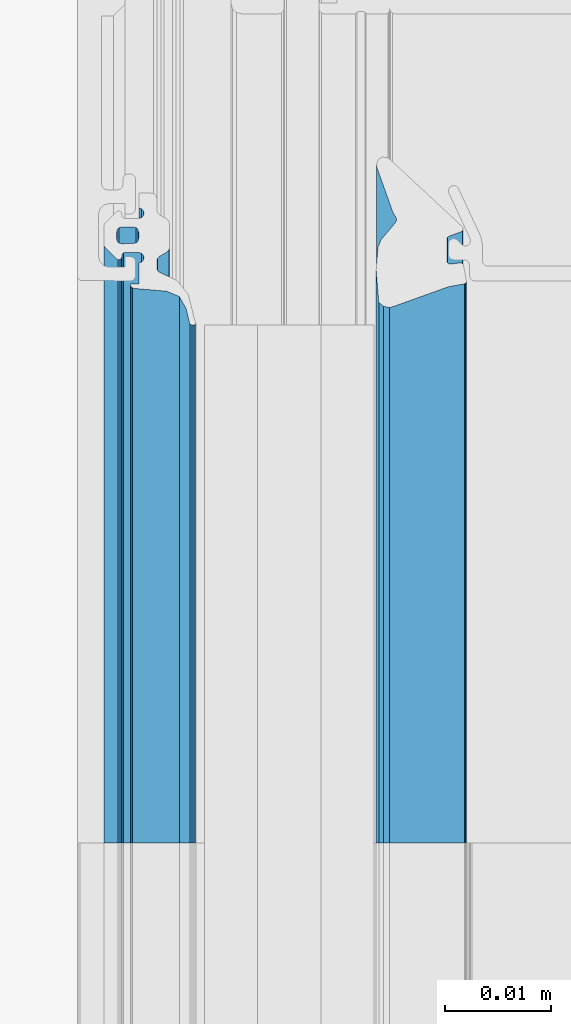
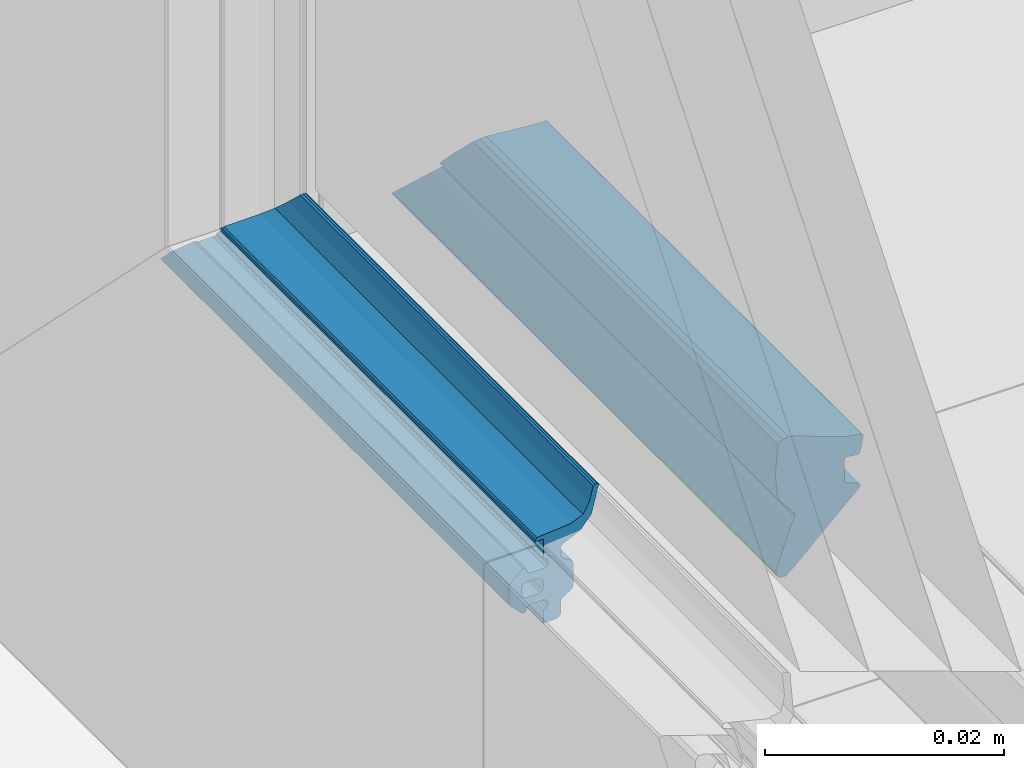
# One storey, part 56 of 62: 1 building element part, 2 elements without a shape of their own.
"""IFC2X3 building model written with IfcOpenShell, lengths in millimetres."""

from ifc_helpers import new_model, entity, si_unit, converted_unit, derived_unit, money_unit, direction, frame, origin_with_axes, place, context, subcontext, project, spatial, faceted_brep, material, type_object, element, aggregate, save


model = new_model("IFC2X3")

# Units and contexts
model_context = context("Model", 3, precision=0.01, world=origin_with_axes(), true_north=direction((0.0, 1.0)))
body_context = subcontext(model_context, "Body", "Model", "MODEL_VIEW")
ifc_project = project(units=[si_unit("LENGTHUNIT", "METRE", prefix="MILLI"), si_unit("AREAUNIT", "SQUARE_METRE"), si_unit("VOLUMEUNIT", "CUBIC_METRE"), converted_unit("PLANEANGLEUNIT", "DEGREE", entity("IfcPlaneAngleMeasure", 0.0174532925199), si_unit("PLANEANGLEUNIT", "RADIAN"), dimensions=[0, 0, 0, 0, 0, 0, 0]), si_unit("SOLIDANGLEUNIT", "STERADIAN"), money_unit("EUR"), converted_unit("TIMEUNIT", "Year", entity("IfcTimeMeasure", 31556926.0), si_unit("TIMEUNIT", "SECOND"), dimensions=[0, 0, 1, 0, 0, 0, 0]), si_unit("MASSUNIT", "GRAM", prefix="KILO"), si_unit("THERMODYNAMICTEMPERATUREUNIT", "DEGREE_CELSIUS"), si_unit("LUMINOUSINTENSITYUNIT", "LUMEN"), si_unit("ENERGYUNIT", "JOULE", prefix="MEGA"), derived_unit("THERMALCONDUCTANCEUNIT", [(si_unit("POWERUNIT", "WATT"), 1), (si_unit("LENGTHUNIT", "METRE"), -1), (si_unit("THERMODYNAMICTEMPERATUREUNIT", "KELVIN"), -1)]), derived_unit("SPECIFICHEATCAPACITYUNIT", [(si_unit("ENERGYUNIT", "JOULE"), 1), (si_unit("MASSUNIT", "GRAM", prefix="KILO"), -1), (si_unit("THERMODYNAMICTEMPERATUREUNIT", "KELVIN"), -1)]), derived_unit("MASSDENSITYUNIT", [(si_unit("MASSUNIT", "GRAM", prefix="KILO"), 1), (si_unit("VOLUMEUNIT", "CUBIC_METRE"), -1)])], contexts=[model_context])

# Site, building, storey
site_placement = place(None, origin_with_axes())
site = spatial("IfcSite", under=ifc_project, at=site_placement, Name="Puškini 31, Narva", CompositionType="ELEMENT")
building_placement = place(site_placement, origin_with_axes())
building = spatial("IfcBuilding", under=site, at=building_placement, Name="Narva Riigigümnaasium", CompositionType="ELEMENT")
storey_placement = place(building_placement, frame((0.0, 0.0, 660.0), z_axis=(0.0, 0.0, 1.0), x_axis=(1.0, 0.0, 0.0)))
storey = spatial("IfcBuildingStorey", under=building, at=storey_placement, Name="2.korrus +0.66", CompositionType="ELEMENT", Elevation=660.0)

# Curtain wall, member, building element part
curtain_wall_type = type_object("IfcCurtainWallType", Name="Curtain Wall Type", PredefinedType="NOTDEFINED")
curtain_wall_placement = place(storey_placement, frame((47544.998162, 221675.502168, -2.45869393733e-05), z_axis=(0.0, 0.0, 1.0), x_axis=(1.0, 0.0, 0.0)))
curtain_wall = element("IfcCurtainWall", 1, at=curtain_wall_placement, inside=storey, type_object=curtain_wall_type, Name="G-SKLF-51")
member_type = type_object("IfcMemberType", Name="61 x 45", PredefinedType="MULLION")
member_placement = place(curtain_wall_placement, frame((-0.0091109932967, 2124.49797564, 0.0), z_axis=(4.28853941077e-06, -0.999999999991, 0.0), x_axis=(0.0, 0.0, 1.0)))
member = element("IfcMember", 2, at=member_placement, type_object=member_type, Name="G-SKLF-63-raam", ObjectType="MULLION")
aggregate(curtain_wall, [member])
ifc_material = material(Name="Membraan - Veekindel")
building_element_part_placement = place(member_placement, origin_with_axes())
building_element_part = element("IfcBuildingElementPart", 3, at=building_element_part_placement, material=ifc_material, Name="Membraan - Veekindel", context=body_context, shape_type="Brep", body=[
    faceted_brep([(59.5800222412, 34.73794757, 59.5800222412), (59.5800222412, 34.73794757, 109.995778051), (61.0413385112, 34.3890442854, 109.995778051), (61.0413385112, 34.3890442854, 61.0413385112), (58.4755028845, 35.3628499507, 58.4755028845), (58.4755028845, 35.3628499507, 109.995778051), (57.9693613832, 36.5265882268, 109.995778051), (57.7000324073, 39.5999584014, 109.995778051), (57.6464370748, 39.799971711, 109.995778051), (57.5000161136, 39.946391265, 109.995778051), (57.3000022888, 39.9999846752, 109.995778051), (57.3000022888, 39.1999494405, 109.995778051), (55.3000210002, 39.1999606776, 109.995778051), (55.2330337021, 38.9499606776, 109.995778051), (55.0500210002, 38.7669479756, 109.995778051), (54.8000210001, 38.6999606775, 109.995778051), (54.5500210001, 38.7669479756, 109.995778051), (54.3670082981, 38.9499606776, 109.995778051), (54.300021, 39.1999606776, 109.995778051), (54.300021, 40.4999366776, 109.995778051), (54.3402133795, 40.6499366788, 109.995778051), (54.4500210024, 40.7597443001, 109.995778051), (54.6000210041, 40.7999366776, 109.995778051), (54.7000173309, 40.7999366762, 109.995778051), (54.866675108, 40.850483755, 109.995778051), (54.9771753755, 40.9850924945, 109.995778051), (54.9942836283, 41.1584047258, 109.995778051), (54.9122350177, 41.3120206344, 109.995778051), (53.8716106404, 42.3533776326, 109.995778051), (53.7093558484, 42.4618547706, 109.995778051), (53.517932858, 42.4999486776, 109.995778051), (51.8818844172, 42.4999486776, 109.995778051), (51.6904310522, 42.4618421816, 109.995778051), (51.5281601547, 42.3533311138, 109.995778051), (50.4878083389, 41.3119729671, 109.995778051), (50.4057850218, 41.1583618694, 109.995778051), (50.4229059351, 40.9850671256, 109.995778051), (50.5334025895, 40.8504763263, 109.995778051), (50.7000457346, 40.7999366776, 109.995778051), (50.80004, 40.7999366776, 109.995778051), (50.95004, 40.7597442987, 109.995778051), (51.0598476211, 40.6499366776, 109.995778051), (51.10004, 40.4999366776, 109.995778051), (51.10004, 39.1999550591, 109.995778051), (51.0330541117, 38.9499546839, 109.995778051), (50.8500424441, 38.7669409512, 109.995778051), (50.6000428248, 38.699952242, 109.995778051), (50.3500424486, 38.7669381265, 109.995778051), (50.1670287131, 38.9499497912, 109.995778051), (50.10004, 39.1999494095, 109.995778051), (48.7206527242, 39.1999494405, 109.995778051), (48.7206527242, 38.0023809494, 109.995778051), (48.7876400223, 37.7523809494, 109.995778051), (48.9706527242, 37.5693682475, 109.995778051), (49.2206527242, 37.5023809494, 109.995778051), (50.3319753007, 37.5023809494, 109.995778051), (50.5819753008, 37.4353936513, 109.995778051), (50.7649880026, 37.2523809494, 109.995778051), (51.1691331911, 36.5523809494, 109.995778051), (51.352145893, 36.3693682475, 109.995778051), (51.602145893, 36.3023809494, 109.995778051), (53.8391557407, 36.3023809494, 109.995778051), (54.0891557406, 36.3693682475, 109.995778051), (54.2721684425, 36.5523809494, 109.995778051), (54.676313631, 37.2523809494, 109.995778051), (54.8593263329, 37.4353936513, 109.995778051), (55.1093263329, 37.5023809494, 109.995778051), (55.7607444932, 37.5023809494, 109.995778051), (55.9795989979, 37.4519392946, 109.995778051), (56.1542959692, 37.3107917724, 109.995778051), (56.2495873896, 37.1074172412, 109.995778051), (56.9567944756, 35.6067920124, 109.995778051), (58.2346494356, 34.5489145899, 109.995778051), (59.8409257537, 34.1343131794, 109.995778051), (60.7381535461, 33.9217644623, 109.995778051), (61.0108941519, 33.784859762, 109.995778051), (61.1423164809, 33.9681748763, 109.995778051), (61.1536677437, 34.1934467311, 109.995778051), (53.5000340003, 40.7999553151, 109.995778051), (53.433048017, 39.44993177, 109.995778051), (53.2500389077, 39.2669226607, 109.995778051), (53.0000438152, 39.1999366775, 109.995778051), (52.4000171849, 39.1999366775, 109.995778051), (52.1500220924, 39.2669226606, 109.995778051), (51.9670129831, 39.4499317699, 109.995778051), (51.9000269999, 39.6999268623, 109.995778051), (51.9000269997, 40.799955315, 109.995778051), (51.9670118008, 41.0499459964, 109.995778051), (52.150017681, 41.2329518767, 109.995778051), (52.4000083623, 41.299936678, 109.995778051), (53.0000526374, 41.299936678, 109.995778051), (53.2500433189, 41.2329518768, 109.995778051), (53.4330491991, 41.0499459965, 109.995778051), (61.1536677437, 34.1934467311, 61.1536677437), (61.1423164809, 33.9681748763, 61.1423164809), (61.0108941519, 33.784859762, 61.0108941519), (60.7381535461, 33.9217644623, 60.7381535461), (59.8409257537, 34.1343131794, 59.8409257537), (58.2346494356, 34.5489145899, 58.2346494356), (56.9567944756, 35.6067920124, 56.9567944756), (56.2495873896, 37.1074172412, 56.2495873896), (56.1542959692, 37.3107917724, 56.1542959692), (55.9795989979, 37.4519392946, 55.9795989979), (55.7607444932, 37.5023809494, 55.7607444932), (55.1093263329, 37.5023809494, 55.1093263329), (54.8593263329, 37.4353936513, 54.8593263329), (54.676313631, 37.2523809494, 54.676313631), (54.2721684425, 36.5523809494, 54.2721684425), (54.0891557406, 36.3693682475, 54.0891557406), (53.8391557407, 36.3023809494, 53.8391557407), (51.602145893, 36.3023809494, 51.602145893), (51.352145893, 36.3693682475, 51.352145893), (51.1691331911, 36.5523809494, 51.1691331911), (50.7649880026, 37.2523809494, 50.7649880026), (50.5819753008, 37.4353936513, 50.5819753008), (50.3319753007, 37.5023809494, 50.3319753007), (49.2206527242, 37.5023809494, 49.2206527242), (48.9706527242, 37.5693682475, 48.9706527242), (48.7876400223, 37.7523809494, 48.7876400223), (48.7206527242, 38.0023809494, 48.7206527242), (48.7206527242, 39.1999494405, 48.7206527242), (50.10004, 39.1999494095, 50.10004), (50.1670287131, 38.9499497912, 50.1670287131), (50.3500424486, 38.7669381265, 50.3500424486), (50.6000428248, 38.699952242, 50.6000428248), (50.8500424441, 38.7669409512, 50.8500424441), (51.0330541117, 38.9499546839, 51.0330541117), (51.10004, 39.1999550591, 51.10004), (51.10004, 40.4999366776, 51.10004), (51.0598476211, 40.6499366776, 51.0598476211), (50.95004, 40.7597442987, 50.95004), (50.80004, 40.7999366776, 50.80004), (50.7000457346, 40.7999366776, 50.7000457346), (50.5334025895, 40.8504763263, 50.5334025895), (50.4229059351, 40.9850671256, 50.4229059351), (50.4057850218, 41.1583618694, 50.4057850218), (50.4878083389, 41.3119729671, 50.4878083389), (51.5281601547, 42.3533311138, 51.5281601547), (51.6904310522, 42.4618421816, 51.6904310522), (51.8818844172, 42.4999486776, 51.8818844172), (53.517932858, 42.4999486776, 53.517932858), (53.7093558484, 42.4618547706, 53.7093558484), (53.8716106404, 42.3533776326, 53.8716106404), (54.9122350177, 41.3120206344, 54.9122350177), (54.9942836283, 41.1584047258, 54.9942836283), (54.9771753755, 40.9850924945, 54.9771753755), (54.866675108, 40.850483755, 54.866675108), (54.7000173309, 40.7999366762, 54.7000173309), (54.6000210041, 40.7999366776, 54.6000210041), (54.4500210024, 40.7597443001, 54.4500210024), (54.3402133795, 40.6499366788, 54.3402133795), (54.300021, 40.4999366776, 54.300021), (54.300021, 39.1999606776, 54.300021), (54.3670082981, 38.9499606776, 54.3670082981), (54.5500210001, 38.7669479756, 54.5500210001), (54.8000210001, 38.6999606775, 54.8000210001), (55.0500210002, 38.7669479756, 55.0500210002), (55.2330337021, 38.9499606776, 55.2330337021), (55.3000210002, 39.1999606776, 55.3000210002), (57.3000022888, 39.1999494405, 57.3000022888), (57.3000022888, 39.9999846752, 57.3000022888), (57.5000161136, 39.946391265, 57.5000161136), (57.6464370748, 39.799971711, 57.6464370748), (57.7000324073, 39.5999584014, 57.7000324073), (57.9693613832, 36.5265882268, 57.9693613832), (53.5000340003, 40.7999553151, 53.5000340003), (53.4330491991, 41.0499459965, 53.4330491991), (53.2500433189, 41.2329518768, 53.2500433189), (53.0000526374, 41.299936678, 53.0000526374), (52.4000083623, 41.299936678, 52.4000083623), (52.150017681, 41.2329518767, 52.150017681), (51.9670118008, 41.0499459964, 51.9670118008), (51.9000269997, 40.799955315, 51.9000269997), (51.9000269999, 39.6999268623, 51.9000269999), (51.9670129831, 39.4499317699, 51.9670129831), (52.1500220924, 39.2669226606, 52.1500220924), (52.4000171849, 39.1999366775, 52.4000171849), (53.0000438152, 39.1999366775, 53.0000438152), (53.2500389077, 39.2669226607, 53.2500389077), (53.433048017, 39.44993177, 53.433048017)], [[[0, 1, 2, 3]], [[4, 5, 1, 0]], [[2, 1, 5, 6, 7, 8, 9, 10, 11, 12, 13, 14, 15, 16, 17, 18, 19, 20, 21, 22, 23, 24, 25, 26, 27, 28, 29, 30, 31, 32, 33, 34, 35, 36, 37, 38, 39, 40, 41, 42, 43, 44, 45, 46, 47, 48, 49, 50, 51, 52, 53, 54, 55, 56, 57, 58, 59, 60, 61, 62, 63, 64, 65, 66, 67, 68, 69, 70, 71, 72, 73, 74, 75, 76, 77], [78, 79, 80, 81, 82, 83, 84, 85, 86, 87, 88, 89, 90, 91, 92]], [[3, 2, 77, 93]], [[3, 93, 94, 95, 96, 97, 98, 99, 100, 101, 102, 103, 104, 105, 106, 107, 108, 109, 110, 111, 112, 113, 114, 115, 116, 117, 118, 119, 120, 121, 122, 123, 124, 125, 126, 127, 128, 129, 130, 131, 132, 133, 134, 135, 136, 137, 138, 139, 140, 141, 142, 143, 144, 145, 146, 147, 148, 149, 150, 151, 152, 153, 154, 155, 156, 157, 158, 159, 160, 161, 162, 163, 164, 4, 0], [165, 166, 167, 168, 169, 170, 171, 172, 173, 174, 175, 176, 177, 178, 179]], [[164, 6, 5, 4]], [[163, 7, 6, 164]], [[162, 8, 7, 163]], [[161, 9, 8, 162]], [[160, 10, 9, 161]], [[159, 11, 10, 160]], [[158, 12, 11, 159]], [[157, 13, 12, 158]], [[156, 14, 13, 157]], [[155, 15, 14, 156]], [[154, 16, 15, 155]], [[153, 17, 16, 154]], [[152, 18, 17, 153]], [[151, 19, 18, 152]], [[150, 20, 19, 151]], [[149, 21, 20, 150]], [[148, 22, 21, 149]], [[147, 23, 22, 148]], [[146, 24, 23, 147]], [[145, 25, 24, 146]], [[144, 26, 25, 145]], [[143, 27, 26, 144]], [[142, 28, 27, 143]], [[141, 29, 28, 142]], [[140, 30, 29, 141]], [[139, 31, 30, 140]], [[138, 32, 31, 139]], [[137, 33, 32, 138]], [[136, 34, 33, 137]], [[135, 35, 34, 136]], [[134, 36, 35, 135]], [[133, 37, 36, 134]], [[132, 38, 37, 133]], [[131, 39, 38, 132]], [[130, 40, 39, 131]], [[129, 41, 40, 130]], [[128, 42, 41, 129]], [[127, 43, 42, 128]], [[126, 44, 43, 127]], [[125, 45, 44, 126]], [[124, 46, 45, 125]], [[123, 47, 46, 124]], [[122, 48, 47, 123]], [[121, 49, 48, 122]], [[120, 50, 49, 121]], [[119, 51, 50, 120]], [[118, 52, 51, 119]], [[117, 53, 52, 118]], [[116, 54, 53, 117]], [[115, 55, 54, 116]], [[114, 56, 55, 115]], [[113, 57, 56, 114]], [[112, 58, 57, 113]], [[111, 59, 58, 112]], [[110, 60, 59, 111]], [[109, 61, 60, 110]], [[108, 62, 61, 109]], [[107, 63, 62, 108]], [[106, 64, 63, 107]], [[105, 65, 64, 106]], [[104, 66, 65, 105]], [[103, 67, 66, 104]], [[102, 68, 67, 103]], [[101, 69, 68, 102]], [[100, 70, 69, 101]], [[99, 71, 70, 100]], [[98, 72, 71, 99]], [[97, 73, 72, 98]], [[96, 74, 73, 97]], [[95, 75, 74, 96]], [[94, 76, 75, 95]], [[93, 77, 76, 94]], [[179, 79, 78, 165]], [[178, 80, 79, 179]], [[177, 81, 80, 178]], [[176, 82, 81, 177]], [[175, 83, 82, 176]], [[174, 84, 83, 175]], [[173, 85, 84, 174]], [[172, 86, 85, 173]], [[171, 87, 86, 172]], [[170, 88, 87, 171]], [[169, 89, 88, 170]], [[168, 90, 89, 169]], [[167, 91, 90, 168]], [[166, 92, 91, 167]], [[165, 78, 92, 166]]]),
    faceted_brep([(55.9926715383, 16.8063498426, 55.9926715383), (55.9926715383, 16.8063498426, 109.995778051), (59.0307115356, 16.554149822, 109.995778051), (59.0307115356, 16.554149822, 59.0307115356), (53.7899070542, 16.6230039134, 53.7899070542), (53.7899070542, 16.6230039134, 109.995778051), (53.1225200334, 16.3483062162, 109.995778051), (51.5205025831, 15.0099586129, 109.995778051), (51.3011765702, 14.8998814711, 109.995778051), (51.0558924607, 14.9074036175, 109.995778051), (50.8437237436, 15.0307134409, 109.995778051), (50.5536994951, 15.2121179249, 109.995778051), (46.298307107, 16.7340705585, 109.995778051), (45.950966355, 16.7718696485, 109.995778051), (45.6241929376, 16.6482027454, 109.995778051), (45.3889077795, 16.3899097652, 109.995778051), (45.3195226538, 16.2152275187, 109.995778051), (45.3418968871, 15.7688623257, 109.995778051), (45.6142070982, 15.4144760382, 109.995778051), (51.8169217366, 8.74599822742, 109.995778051), (51.938943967, 8.6326446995, 109.995778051), (52.1026310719, 8.60190419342, 109.995778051), (52.2574645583, 8.66326410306, 109.995778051), (52.3556584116, 8.79778701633, 109.995778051), (52.7761212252, 9.95299910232, 109.995778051), (52.8859560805, 10.0961386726, 109.995778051), (53.0580290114, 10.1503930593, 109.995778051), (55.1123574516, 10.1503930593, 109.995778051), (55.2731258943, 10.1036784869, 109.995778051), (55.3838261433, 9.9780831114, 109.995778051), (55.4099827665, 9.81272116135, 109.995778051), (55.2940485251, 8.85237785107, 109.995778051), (55.3307332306, 8.72753828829, 109.995778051), (55.4168250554, 8.62997353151, 109.995778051), (55.5361285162, 8.57803733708, 109.995778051), (56.9361285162, 8.30590490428, 109.995778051), (57.0661058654, 8.3093438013, 109.995778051), (57.1824204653, 8.36745448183, 109.995778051), (57.2632233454, 8.46932121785, 109.995778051), (57.5418652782, 10.0035930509, 109.995778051), (59.3405112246, 15.0012955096, 109.995778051), (59.5001582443, 15.5494067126, 109.995778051), (59.3884652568, 16.1092618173, 109.995778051), (59.3884652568, 16.1092618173, 59.3884652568), (59.5001582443, 15.5494067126, 59.5001582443), (59.3405112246, 15.0012955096, 59.3405112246), (57.5418652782, 10.0035930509, 57.5418652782), (57.2632233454, 8.46932121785, 57.2632233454), (57.1824204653, 8.36745448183, 57.1824204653), (57.0661058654, 8.3093438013, 57.0661058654), (56.9361285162, 8.30590490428, 56.9361285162), (55.5361285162, 8.57803733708, 55.5361285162), (55.4168250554, 8.62997353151, 55.4168250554), (55.3307332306, 8.72753828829, 55.3307332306), (55.2940485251, 8.85237785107, 55.2940485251), (55.4099827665, 9.81272116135, 55.4099827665), (55.3838261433, 9.9780831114, 55.3838261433), (55.2731258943, 10.1036784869, 55.2731258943), (55.1123574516, 10.1503930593, 55.1123574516), (53.0580290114, 10.1503930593, 53.0580290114), (52.8859560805, 10.0961386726, 52.8859560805), (52.7761212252, 9.95299910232, 52.7761212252), (52.3556584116, 8.79778701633, 52.3556584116), (52.2574645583, 8.66326410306, 52.2574645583), (52.1026310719, 8.60190419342, 52.1026310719), (51.938943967, 8.6326446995, 51.938943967), (51.8169217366, 8.74599822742, 51.8169217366), (45.6142070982, 15.4144760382, 45.6142070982), (45.3418968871, 15.7688623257, 45.3418968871), (45.3195226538, 16.2152275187, 45.3195226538), (45.3889077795, 16.3899097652, 45.3889077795), (45.6241929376, 16.6482027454, 45.6241929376), (45.950966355, 16.7718696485, 45.950966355), (46.298307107, 16.7340705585, 46.298307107), (50.5536994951, 15.2121179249, 50.5536994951), (50.8437237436, 15.0307134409, 50.8437237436), (51.0558924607, 14.9074036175, 51.0558924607), (51.3011765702, 14.8998814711, 51.3011765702), (51.5205025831, 15.0099586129, 51.5205025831), (53.1225200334, 16.3483062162, 53.1225200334)], [[[0, 1, 2, 3]], [[4, 5, 1, 0]], [[2, 1, 5, 6, 7, 8, 9, 10, 11, 12, 13, 14, 15, 16, 17, 18, 19, 20, 21, 22, 23, 24, 25, 26, 27, 28, 29, 30, 31, 32, 33, 34, 35, 36, 37, 38, 39, 40, 41, 42]], [[3, 2, 42, 43]], [[3, 43, 44, 45, 46, 47, 48, 49, 50, 51, 52, 53, 54, 55, 56, 57, 58, 59, 60, 61, 62, 63, 64, 65, 66, 67, 68, 69, 70, 71, 72, 73, 74, 75, 76, 77, 78, 79, 4, 0]], [[79, 6, 5, 4]], [[78, 7, 6, 79]], [[77, 8, 7, 78]], [[76, 9, 8, 77]], [[75, 10, 9, 76]], [[74, 11, 10, 75]], [[73, 12, 11, 74]], [[72, 13, 12, 73]], [[71, 14, 13, 72]], [[70, 15, 14, 71]], [[69, 16, 15, 70]], [[68, 17, 16, 69]], [[67, 18, 17, 68]], [[66, 19, 18, 67]], [[65, 20, 19, 66]], [[64, 21, 20, 65]], [[63, 22, 21, 64]], [[62, 23, 22, 63]], [[61, 24, 23, 62]], [[60, 25, 24, 61]], [[59, 26, 25, 60]], [[58, 27, 26, 59]], [[57, 28, 27, 58]], [[56, 29, 28, 57]], [[55, 30, 29, 56]], [[54, 31, 30, 55]], [[53, 32, 31, 54]], [[52, 33, 32, 53]], [[51, 34, 33, 52]], [[50, 35, 34, 51]], [[49, 36, 35, 50]], [[48, 37, 36, 49]], [[47, 38, 37, 48]], [[46, 39, 38, 47]], [[45, 40, 39, 46]], [[44, 41, 40, 45]], [[43, 42, 41, 44]]]),
])
aggregate(member, [building_element_part])

save(model, "model.ifc")
